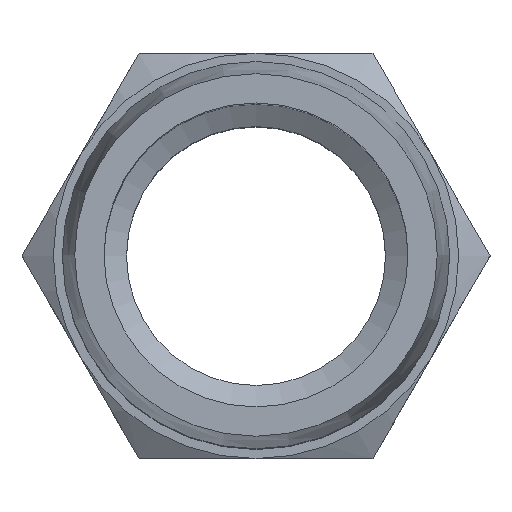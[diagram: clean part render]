
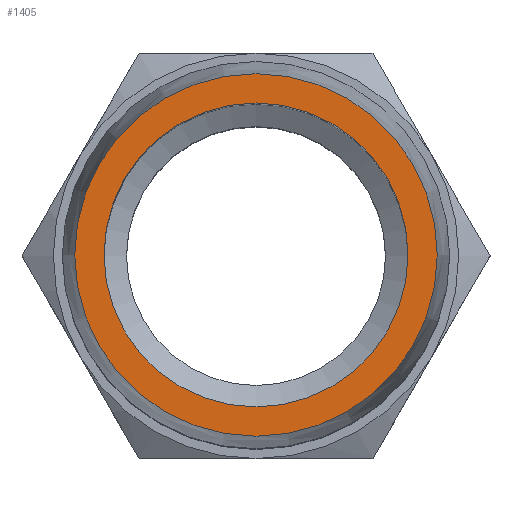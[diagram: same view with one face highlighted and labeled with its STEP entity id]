
A CAD part, top view. The second image highlights one B-rep face of the part: STEP entity #1405.
In plain terms, the highlighted planar face has unit normal (0, 0, 1) as drawn and (0, 1, 0) by its records, which use the part's own axes.
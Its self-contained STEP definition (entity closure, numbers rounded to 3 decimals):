
#804=ORIENTED_EDGE('',*,*,#948,.T.);
#805=ORIENTED_EDGE('',*,*,#949,.F.);
#844=CIRCLE('',#1347,8.05);
#845=CIRCLE('',#1349,6.75);
#887=VERTEX_POINT('',#1542);
#888=VERTEX_POINT('',#1545);
#948=EDGE_CURVE('',#887,#887,#844,.T.);
#949=EDGE_CURVE('',#888,#888,#845,.T.);
#999=EDGE_LOOP('',(#804));
#1000=EDGE_LOOP('',(#805));
#1057=FACE_BOUND('',#999,.T.);
#1058=FACE_BOUND('',#1000,.T.);
#1240=DIRECTION('',(0.,1.,0.));
#1241=DIRECTION('',(8.05,0.,0.));
#1242=DIRECTION('',(0.,1.,0.));
#1243=DIRECTION('',(1.,0.,0.));
#1244=DIRECTION('',(0.,1.,0.));
#1245=DIRECTION('',(6.75,0.,0.));
#1347=AXIS2_PLACEMENT_3D('',#1543,#1240,#1241);
#1348=AXIS2_PLACEMENT_3D('',#1544,#1242,#1243);
#1349=AXIS2_PLACEMENT_3D('',#1546,#1244,#1245);
#1372=PLANE('',#1348);
#1405=ADVANCED_FACE('',(#1057,#1058),#1372,.T.);
#1542=CARTESIAN_POINT('',(32.972,63.272,0.));
#1543=CARTESIAN_POINT('',(24.922,63.272,0.));
#1544=CARTESIAN_POINT('',(32.972,63.272,0.));
#1545=CARTESIAN_POINT('',(31.672,63.272,0.));
#1546=CARTESIAN_POINT('',(24.922,63.272,0.));
